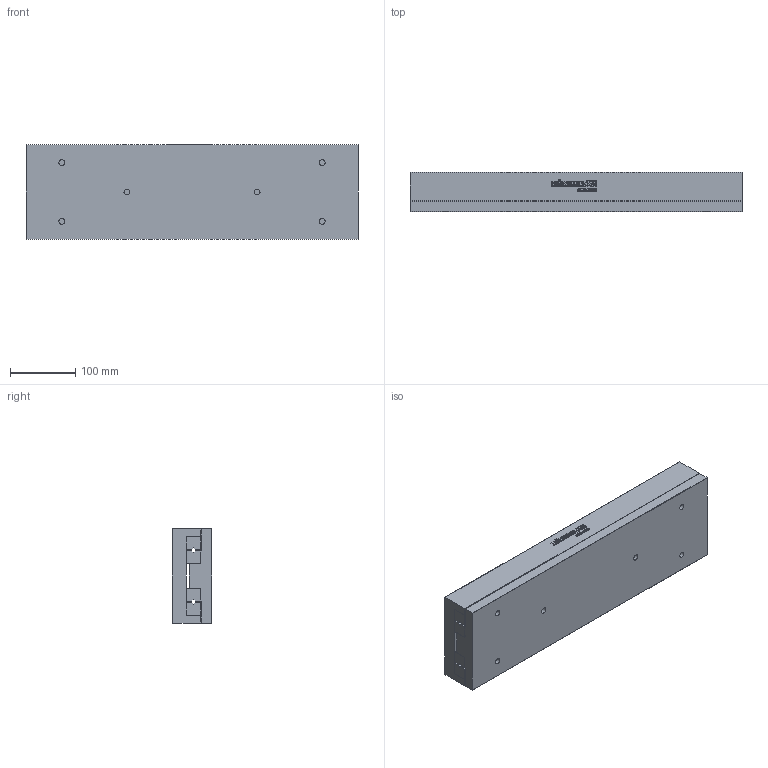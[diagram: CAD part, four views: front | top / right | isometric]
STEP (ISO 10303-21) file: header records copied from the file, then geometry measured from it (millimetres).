
FILE_DESCRIPTION(/* description */ ('STEP AP214'),/* implementation_level */ '2;1');
FILE_NAME(/* name */ 'NK 9-510-B(0)',/* time_stamp */ '2025-04-22T17:52:14+02:00',/* author */ ('License CC BY-ND 4.0'),/* organization */ ('CADENAS'),/* preprocessor_version */ 'ST-DEVELOPER v19.3',/* originating_system */ 'PARTsolutions',/* authorisation */ ' ');
FILE_SCHEMA (('AUTOMOTIVE_DESIGN {1 0 10303 214 3 1 1}'));
Length unit declared in the file: millimetre
Products named in the file (3): NK 9-510-B(0); NK 9-510-B_1; NK 9-510-B_2
Assembly tree (2 placements, depth 2):
  NK 9-510-B(0)
    NK 9-510-B_1
    NK 9-510-B_2
Bounding box: 510 x 60 x 145 mm (x, y, z)
Volume: 4229546 mm3; surface area: 514898.1 mm2
Topology: 2 solids, 2 shells, 611 faces, 1700 edges, 1116 vertices
Faces by surface type: cylinder 312, plane 283, cone 16
Full cylindrical faces by diameter (mm): 6.647 x8, 9 x6, 15 x6
Entity records: 19565 total; most frequent: DIRECTION 3532, CARTESIAN_POINT 3370, ORIENTED_EDGE 3304, EDGE_CURVE 1652, AXIS2_PLACEMENT_3D 1266, VERTEX_POINT 1104, LINE 1000, VECTOR 1000
